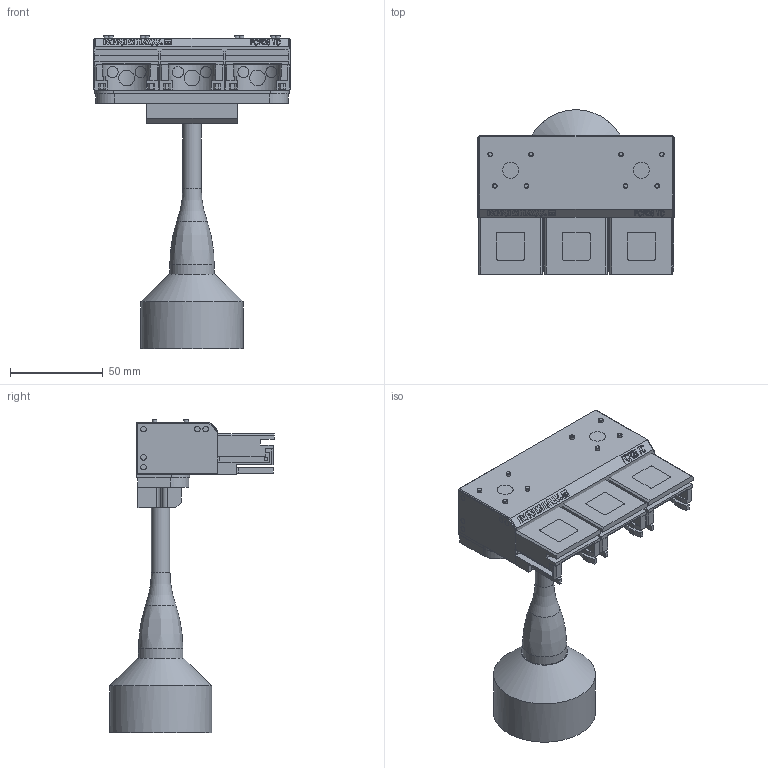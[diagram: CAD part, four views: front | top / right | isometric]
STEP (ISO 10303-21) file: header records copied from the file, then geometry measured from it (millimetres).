
FILE_DESCRIPTION(/* description */ (''),/* implementation_level */ '2;1');
FILE_NAME(/* name */ 'LA-2237-1409#-C.stp',/* time_stamp */ '2012-09-04T14:41:43+01:00',/* author */ (''),/* organization */ (''),/* preprocessor_version */ 'ST-DEVELOPER v11',/* originating_system */ 'SIEMENS PLM Software NX 7.5',/* authorisation */ '');
FILE_SCHEMA (('AUTOMOTIVE_DESIGN { 1 0 10303 214 1 1 1 1 }'));
Length unit declared in the file: millimetre
Products named in the file (1): rt133622tjrc
Bounding box: 105.75 x 88.75 x 168.89 mm (x, y, z)
Volume: 286021.5 mm3; surface area: 54912.7 mm2
Topology: 4 solids, 4 shells, 458 faces, 1350 edges, 980 vertices
Faces by surface type: plane 383, cylinder 60, cone 9, bspline 5, torus 1
Full cylindrical faces by diameter (mm): 2.5 x8, 6.1 x1, 10 x1, 23.95 x1, 55 x1
Entity records: 18514 total; most frequent: CARTESIAN_POINT 3763, ORIENTED_EDGE 2646, DIRECTION 2337, EDGE_CURVE 1323, LINE 1067, VECTOR 1067, VERTEX_POINT 977, AXIS2_PLACEMENT_3D 635
